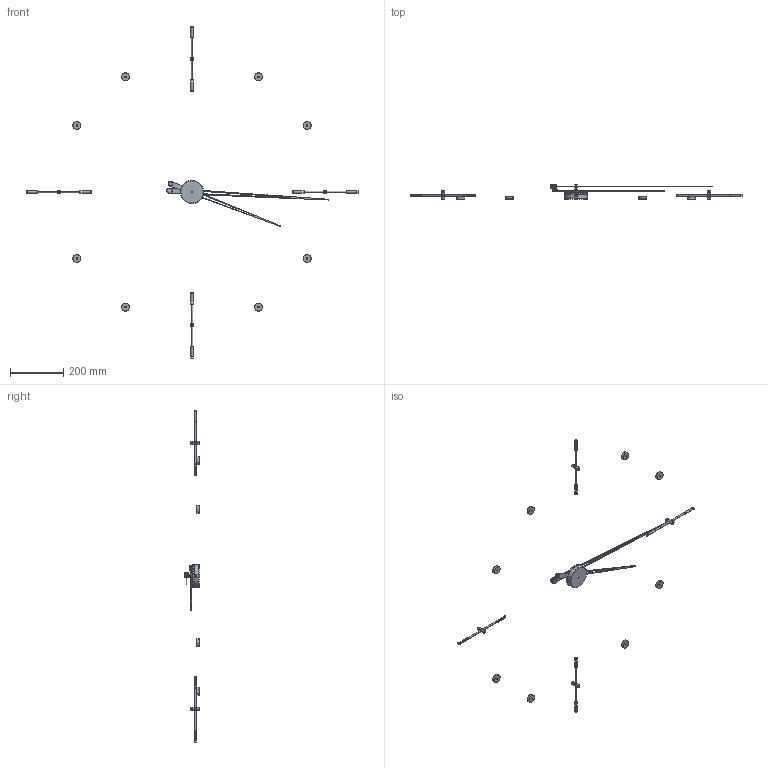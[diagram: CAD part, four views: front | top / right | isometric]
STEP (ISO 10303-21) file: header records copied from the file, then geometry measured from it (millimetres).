
FILE_DESCRIPTION (( 'STEP AP214' ), '1' );
FILE_NAME ('Mixto n_125.STEP', '2016-09-14T08:16:31', ( '' ), ( '' ), 'SwSTEP 2.0', 'SolidWorks 2013', '' );
FILE_SCHEMA (( 'AUTOMOTIVE_DESIGN' ));
Length unit declared in the file: millimetre
Products named in the file (27): Axioma_n_100; Casquillo_señal_horaria_merlín; aguja_horaria_calada_nogal; Pasante; Señal_horaria_merlín; Tuerca; Embellecedor; aguja_minutera_calada_nogal; Cierre_contrapeso; Caja_acero_inox; Esparrago_roscado_merlin; Esparrago; Señal_horaria_rodón; Pieza_caja_superior; Arandela_2; Embellecedor_señal_horaria_merlín; Anclaje_señal_horaria_merlin; Pieza2; Aguja_horaria_calada_nogal; Mecanismo; Aguja_minutera_calada_nogal; Contrapeso grande; Contrapeso_pequeño; Tuerca 1.5; Varilla_nogal_señal_horaria_merlín; Pieza_caja_inferior; Mixto n_125
Assembly tree (39 placements, depth 4):
  Mixto n_125
    Axioma_n_100
      Caja_acero_inox
        Pieza_caja_inferior
        Pieza_caja_superior
        Mecanismo
        Pieza2
      Aguja_horaria_calada_nogal
        aguja_horaria_calada_nogal
        Contrapeso_pequeño
        Cierre_contrapeso
        Arandela_2
        Tuerca
        Pasante
      Aguja_minutera_calada_nogal
        aguja_minutera_calada_nogal
        Contrapeso grande  x2
        Arandela_2
        Embellecedor
        Esparrago
        Tuerca 1.5
    Señal_horaria_merlín  x4
      Anclaje_señal_horaria_merlin
      Casquillo_señal_horaria_merlín
      Embellecedor_señal_horaria_merlín
      Esparrago_roscado_merlin
      Varilla_nogal_señal_horaria_merlín
    Señal_horaria_rodón  x8
Bounding box: 1250.18 x 55.1 x 1250.18 mm (x, y, z)
Volume: 185369.3 mm3; surface area: 152516 mm2
Topology: 49 solids, 49 shells, 428 faces, 860 edges, 558 vertices
Faces by surface type: cylinder 232, plane 158, torus 26, cone 12
Entity records: 8014 total; most frequent: CARTESIAN_POINT 1381, DIRECTION 1360, ORIENTED_EDGE 1012, AXIS2_PLACEMENT_3D 577, EDGE_CURVE 506, VERTEX_POINT 322, EDGE_LOOP 290, CIRCLE 288
